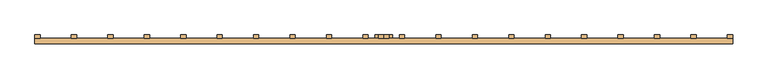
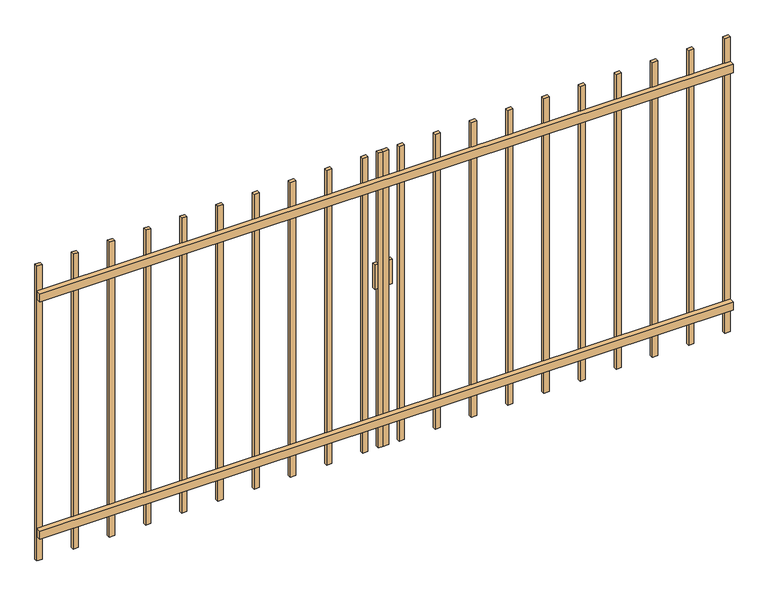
"""IFC4 building model written with IfcOpenShell, lengths in millimetres: door geometry, PORTÃO DUPLO PAREDE CORTINA : PORTÃO DUPLO 4M."""

from ifc_helpers import new_model, si_unit, frame, origin, place, context, project, spatial, polyline, outline, extrude, source, transform, mapped, element, save


def door_7768011b(model_context):
    return source(origin(), model_context, "Body", "SweptSolid", [
        extrude(outline(polyline([(-1761.0526316, 90.0), (-1761.0526316, 70.0), (-1791.0526316, 70.0), (-1791.0526316, 90.0), (-1761.0526316, 90.0)])), frame((0.0, 0.0, 50.0), z_axis=(0.0, 0.0, 1.0), x_axis=(1.0, 0.0, 0.0)), (0.0, 0.0, 1.0), 1800.0),
        extrude(outline(polyline([(-1552.1052632, 90.0), (-1552.1052632, 70.0), (-1582.1052632, 70.0), (-1582.1052632, 90.0), (-1552.1052632, 90.0)])), frame((0.0, 0.0, 50.0), z_axis=(0.0, 0.0, 1.0), x_axis=(1.0, 0.0, 0.0)), (0.0, 0.0, 1.0), 1800.0),
        extrude(outline(polyline([(-1343.1578947, 90.0), (-1343.1578947, 70.0), (-1373.1578947, 70.0), (-1373.1578947, 90.0), (-1343.1578947, 90.0)])), frame((0.0, 0.0, 50.0), z_axis=(0.0, 0.0, 1.0), x_axis=(1.0, 0.0, 0.0)), (0.0, 0.0, 1.0), 1800.0),
        extrude(outline(polyline([(-1134.2105263, 90.0), (-1134.2105263, 70.0), (-1164.2105263, 70.0), (-1164.2105263, 90.0), (-1134.2105263, 90.0)])), frame((0.0, 0.0, 50.0), z_axis=(0.0, 0.0, 1.0), x_axis=(1.0, 0.0, 0.0)), (0.0, 0.0, 1.0), 1800.0),
        extrude(outline(polyline([(-925.2631579, 90.0), (-925.2631579, 70.0), (-955.2631579, 70.0), (-955.2631579, 90.0), (-925.2631579, 90.0)])), frame((0.0, 0.0, 50.0), z_axis=(0.0, 0.0, 1.0), x_axis=(1.0, 0.0, 0.0)), (0.0, 0.0, 1.0), 1800.0),
        extrude(outline(polyline([(-716.3157895, 90.0), (-716.3157895, 70.0), (-746.3157895, 70.0), (-746.3157895, 90.0), (-716.3157895, 90.0)])), frame((0.0, 0.0, 50.0), z_axis=(0.0, 0.0, 1.0), x_axis=(1.0, 0.0, 0.0)), (0.0, 0.0, 1.0), 1800.0),
        extrude(outline(polyline([(-507.3684211, 90.0), (-507.3684211, 70.0), (-537.3684211, 70.0), (-537.3684211, 90.0), (-507.3684211, 90.0)])), frame((0.0, 0.0, 50.0), z_axis=(0.0, 0.0, 1.0), x_axis=(1.0, 0.0, 0.0)), (0.0, 0.0, 1.0), 1800.0),
        extrude(outline(polyline([(-298.4210526, 90.0), (-298.4210526, 70.0), (-328.4210526, 70.0), (-328.4210526, 90.0), (-298.4210526, 90.0)])), frame((0.0, 0.0, 50.0), z_axis=(0.0, 0.0, 1.0), x_axis=(1.0, 0.0, 0.0)), (0.0, 0.0, 1.0), 1800.0),
        extrude(outline(polyline([(30.0, 90.0), (30.0, 70.0), (0.0, 70.0), (0.0, 90.0), (30.0, 90.0)])), frame((0.0, 0.0, 50.0), z_axis=(0.0, 0.0, 1.0), x_axis=(1.0, 0.0, 0.0)), (0.0, 0.0, 1.0), 1800.0),
        extrude(outline(polyline([(0.0, 90.0), (0.0, 70.0), (-30.0, 70.0), (-30.0, 90.0), (0.0, 90.0)])), frame((0.0, 0.0, 50.0), z_axis=(0.0, 0.0, 1.0), x_axis=(1.0, 0.0, 0.0)), (0.0, 0.0, 1.0), 1800.0),
        extrude(outline(polyline([(-89.4736842, 90.0), (-89.4736842, 70.0), (-119.4736842, 70.0), (-119.4736842, 90.0), (-89.4736842, 90.0)])), frame((0.0, 0.0, 50.0), z_axis=(0.0, 0.0, 1.0), x_axis=(1.0, 0.0, 0.0)), (0.0, 0.0, 1.0), 1800.0),
        extrude(outline(polyline([(119.4736842, 90.0), (119.4736842, 70.0), (89.4736842, 70.0), (89.4736842, 90.0), (119.4736842, 90.0)])), frame((0.0, 0.0, 50.0), z_axis=(0.0, 0.0, 1.0), x_axis=(1.0, 0.0, 0.0)), (0.0, 0.0, 1.0), 1800.0),
        extrude(outline(polyline([(328.4210526, 90.0), (328.4210526, 70.0), (298.4210526, 70.0), (298.4210526, 90.0), (328.4210526, 90.0)])), frame((0.0, 0.0, 50.0), z_axis=(0.0, 0.0, 1.0), x_axis=(1.0, 0.0, 0.0)), (0.0, 0.0, 1.0), 1800.0),
        extrude(outline(polyline([(537.3684211, 90.0), (537.3684211, 70.0), (507.3684211, 70.0), (507.3684211, 90.0), (537.3684211, 90.0)])), frame((0.0, 0.0, 50.0), z_axis=(0.0, 0.0, 1.0), x_axis=(1.0, 0.0, 0.0)), (0.0, 0.0, 1.0), 1800.0),
        extrude(outline(polyline([(746.3157895, 90.0), (746.3157895, 70.0), (716.3157895, 70.0), (716.3157895, 90.0), (746.3157895, 90.0)])), frame((0.0, 0.0, 50.0), z_axis=(0.0, 0.0, 1.0), x_axis=(1.0, 0.0, 0.0)), (0.0, 0.0, 1.0), 1800.0),
        extrude(outline(polyline([(955.2631579, 90.0), (955.2631579, 70.0), (925.2631579, 70.0), (925.2631579, 90.0), (955.2631579, 90.0)])), frame((0.0, 0.0, 50.0), z_axis=(0.0, 0.0, 1.0), x_axis=(1.0, 0.0, 0.0)), (0.0, 0.0, 1.0), 1800.0),
        extrude(outline(polyline([(1164.2105263, 90.0), (1164.2105263, 70.0), (1134.2105263, 70.0), (1134.2105263, 90.0), (1164.2105263, 90.0)])), frame((0.0, 0.0, 50.0), z_axis=(0.0, 0.0, 1.0), x_axis=(1.0, 0.0, 0.0)), (0.0, 0.0, 1.0), 1800.0),
        extrude(outline(polyline([(1373.1578947, 90.0), (1373.1578947, 70.0), (1343.1578947, 70.0), (1343.1578947, 90.0), (1373.1578947, 90.0)])), frame((0.0, 0.0, 50.0), z_axis=(0.0, 0.0, 1.0), x_axis=(1.0, 0.0, 0.0)), (0.0, 0.0, 1.0), 1800.0),
        extrude(outline(polyline([(1582.1052632, 90.0), (1582.1052632, 70.0), (1552.1052632, 70.0), (1552.1052632, 90.0), (1582.1052632, 90.0)])), frame((0.0, 0.0, 50.0), z_axis=(0.0, 0.0, 1.0), x_axis=(1.0, 0.0, 0.0)), (0.0, 0.0, 1.0), 1800.0),
        extrude(outline(polyline([(1791.0526316, 90.0), (1791.0526316, 70.0), (1761.0526316, 70.0), (1761.0526316, 90.0), (1791.0526316, 90.0)])), frame((0.0, 0.0, 50.0), z_axis=(0.0, 0.0, 1.0), x_axis=(1.0, 0.0, 0.0)), (0.0, 0.0, 1.0), 1800.0),
        extrude(outline(polyline([(-1970.0, 90.0), (-1970.0, 70.0), (-2000.0, 70.0), (-2000.0, 90.0), (-1970.0, 90.0)])), frame((0.0, 0.0, 50.0), z_axis=(0.0, 0.0, 1.0), x_axis=(1.0, 0.0, 0.0)), (0.0, 0.0, 1.0), 1800.0),
        extrude(outline(polyline([(2000.0, 90.0), (2000.0, 70.0), (1970.0, 70.0), (1970.0, 90.0), (2000.0, 90.0)])), frame((0.0, 0.0, 50.0), z_axis=(0.0, 0.0, 1.0), x_axis=(1.0, 0.0, 0.0)), (0.0, 0.0, 1.0), 1800.0),
        extrude(outline(polyline([(51.2053405, 70.0), (-51.2053405, 70.0), (-51.2053405, 90.0), (51.2053405, 90.0), (51.2053405, 70.0)])), frame((0.0, 0.0, 1025.0), z_axis=(0.0, 0.0, 1.0), x_axis=(1.0, 0.0, 0.0)), (0.0, 0.0, 1.0), 150.0),
        extrude(outline(polyline([(-2000.0, 40.0), (-2000.0, 70.0), (2000.0, 70.0), (2000.0, 40.0), (-2000.0, 40.0)])), frame((0.0, 0.0, 200.0), z_axis=(0.0, 0.0, 1.0), x_axis=(1.0, 0.0, 0.0)), (0.0, 0.0, 1.0), 50.0),
        extrude(outline(polyline([(-2000.0, 40.0), (-2000.0, 70.0), (2000.0, 70.0), (2000.0, 40.0), (-2000.0, 40.0)])), frame((0.0, 0.0, 1650.0), z_axis=(0.0, 0.0, 1.0), x_axis=(1.0, 0.0, 0.0)), (0.0, 0.0, 1.0), 50.0),
    ])


if __name__ == "__main__":
    model = new_model("IFC4")
    model_context = context("Model", 3, world=origin())
    ifc_project = project(units=[si_unit("LENGTHUNIT", "METRE", prefix="MILLI")], contexts=[model_context])
    site = spatial("IfcSite", under=ifc_project)
    building = spatial("IfcBuilding", under=site)
    placement = place(None, origin())
    door_shape = door_7768011b(model_context)
    element("IfcDoor", 1, ObjectType="PORTÃO DUPLO PAREDE CORTINA : PORTÃO DUPLO 4M", at=placement, inside=building, context=model_context, shape_type="MappedRepresentation", body=[
        mapped(door_shape, transform((0.0, 0.0, 0.0), x_axis=(1.0, 0.0, 0.0), y_axis=(0.0, 1.0, 0.0), z_axis=(0.0, 0.0, 1.0))),
    ])
    save(model, "model.ifc")
